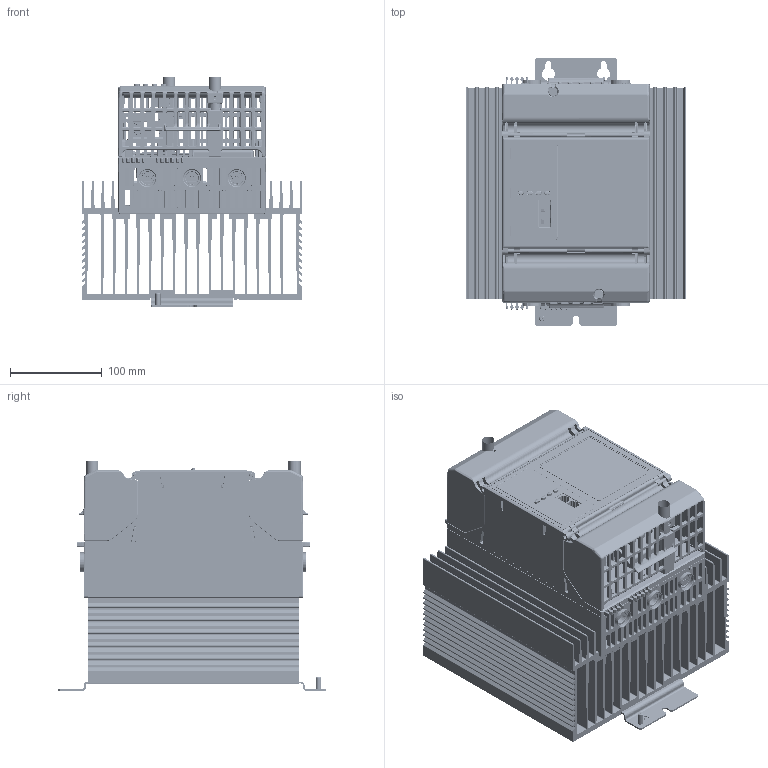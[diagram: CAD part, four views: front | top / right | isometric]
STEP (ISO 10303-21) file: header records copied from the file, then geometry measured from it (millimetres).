
FILE_DESCRIPTION((''),'2;1');
FILE_NAME('EPACK_125AA_2-3PH','2017-01-26T',('SESA317746'),(''),'PRO/ENGINEER BY PARAMETRIC TECHNOLOGY CORPORATION, 2014320','PRO/ENGINEER BY PARAMETRIC TECHNOLOGY CORPORATION, 2014320','');
FILE_SCHEMA(('CONFIG_CONTROL_DESIGN'));
Products named in the file (1): EPACK_125AA_2-3PH
Bounding box: 240 x 291 x 249.9 mm (x, y, z)
Volume: 2568311.9 mm3; surface area: 1745531.2 mm2
Topology: 2 solids, 167 shells, 17725 faces, 49504 edges, 32033 vertices
Faces by surface type: plane 9424, cylinder 3654, bspline 2066, extrusion 1380, cone 566, torus 515, sphere 120
Entity records: 711091 total; most frequent: CARTESIAN_POINT 276099, ORIENTED_EDGE 97841, DIRECTION 76024, EDGE_CURVE 49446, VECTOR 33530, LINE 32150, VERTEX_POINT 32036, AXIS2_PLACEMENT_3D 21247
